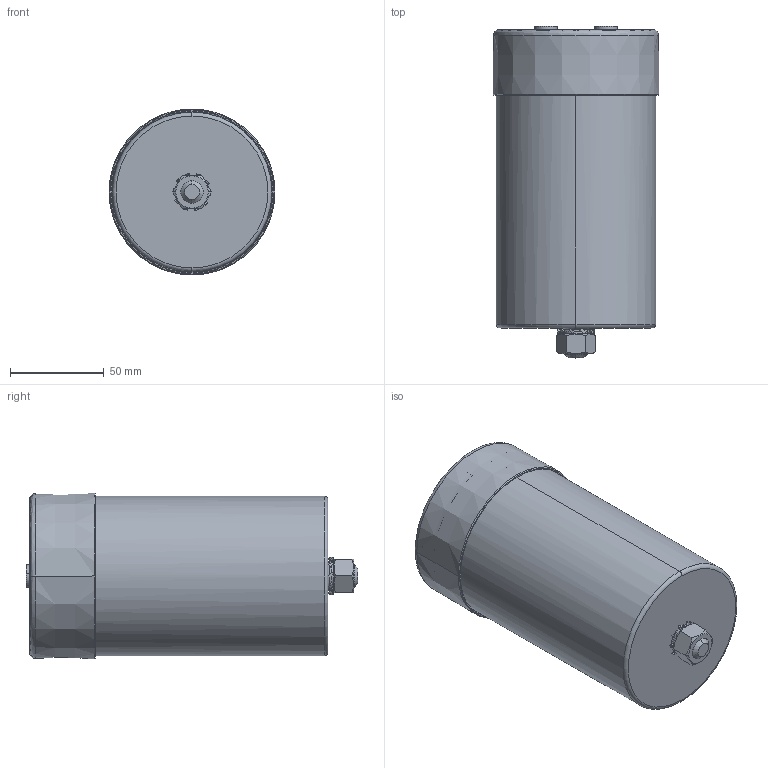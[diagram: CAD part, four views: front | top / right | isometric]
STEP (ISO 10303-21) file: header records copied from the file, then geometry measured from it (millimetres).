
FILE_DESCRIPTION (( 'STEP AP203' ), '1' );
FILE_NAME ('B25620Cx_85x159_161.STEP', '2021-07-01T02:47:49', ( '' ), ( '' ), 'SwSTEP 2.0', 'SolidWorks 2017', '' );
FILE_SCHEMA (( 'CONFIG_CONTROL_DESIGN' ));
Length unit declared in the file: millimetre
Products named in the file (1): B25620Cx_85x159_161
Bounding box: 88.5 x 177 x 88.5 mm (x, y, z)
Volume: 82343.8 mm3; surface area: 133872.2 mm2
Topology: 4 solids, 7 shells, 401 faces, 1027 edges, 642 vertices
Faces by surface type: bspline 124, cylinder 114, plane 97, cone 52, torus 14
Entity records: 15845 total; most frequent: CARTESIAN_POINT 6858, ORIENTED_EDGE 2026, DIRECTION 1621, EDGE_CURVE 1013, AXIS2_PLACEMENT_3D 642, VERTEX_POINT 642, EDGE_LOOP 443, FACE_OUTER_BOUND 401
